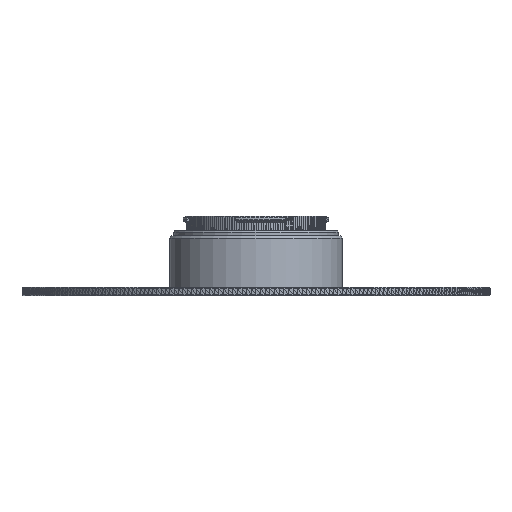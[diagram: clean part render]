
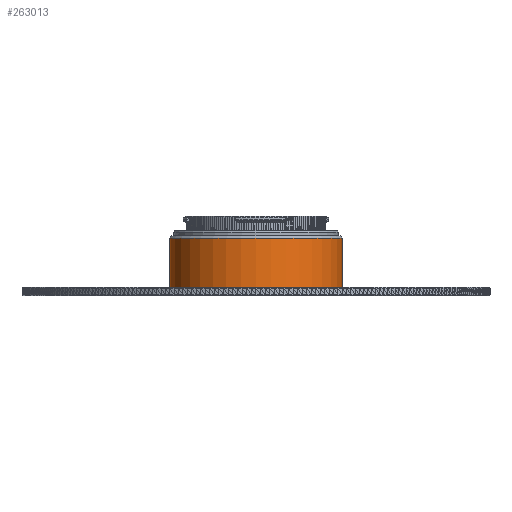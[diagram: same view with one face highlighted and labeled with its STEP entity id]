
A CAD part, front view. The second image highlights one B-rep face of the part: STEP entity #263013.
In plain terms, the highlighted cylindrical face has radius 37 mm (diameter 74 mm), a full revolution.
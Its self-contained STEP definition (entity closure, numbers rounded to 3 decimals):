
#17285=FACE_OUTER_BOUND('',#33864,.T.);
#33864=EDGE_LOOP('',(#186414,#186415,#186416,#186417));
#50691=CIRCLE('',#279771,37.);
#50692=CIRCLE('',#279950,37.);
#52393=LINE('',#373612,#88813);
#88813=VECTOR('',#299609,37.);
#125299=VERTEX_POINT('',#373058);
#125395=VERTEX_POINT('',#373606);
#147103=EDGE_CURVE('',#125299,#125299,#50691,.T.);
#147377=EDGE_CURVE('',#125395,#125395,#50692,.T.);
#147380=EDGE_CURVE('',#125299,#125395,#52393,.T.);
#186414=ORIENTED_EDGE('',*,*,#147103,.T.);
#186415=ORIENTED_EDGE('',*,*,#147380,.T.);
#186416=ORIENTED_EDGE('',*,*,#147377,.F.);
#186417=ORIENTED_EDGE('',*,*,#147380,.F.);
#262750=CYLINDRICAL_SURFACE('',#279952,37.);
#263013=ADVANCED_FACE('',(#17285),#262750,.T.);
#279771=AXIS2_PLACEMENT_3D('',#373059,#298971,#298972);
#279950=AXIS2_PLACEMENT_3D('',#373607,#299602,#299603);
#279952=AXIS2_PLACEMENT_3D('',#373611,#299607,#299608);
#298971=DIRECTION('center_axis',(0.,0.,-1.));
#298972=DIRECTION('ref_axis',(1.,0.,0.));
#299602=DIRECTION('center_axis',(0.,0.,-1.));
#299603=DIRECTION('ref_axis',(1.,0.,0.));
#299607=DIRECTION('center_axis',(0.,0.,-1.));
#299608=DIRECTION('ref_axis',(-1.,0.,0.));
#299609=DIRECTION('',(0.,0.,-1.));
#373058=CARTESIAN_POINT('',(37.,0.,7.65));
#373059=CARTESIAN_POINT('Origin',(0.,0.,7.65));
#373606=CARTESIAN_POINT('',(37.,0.,-14.05));
#373607=CARTESIAN_POINT('Origin',(0.,0.,-14.05));
#373611=CARTESIAN_POINT('Origin',(0.,0.,-3.2));
#373612=CARTESIAN_POINT('',(37.,0.,-3.2));
